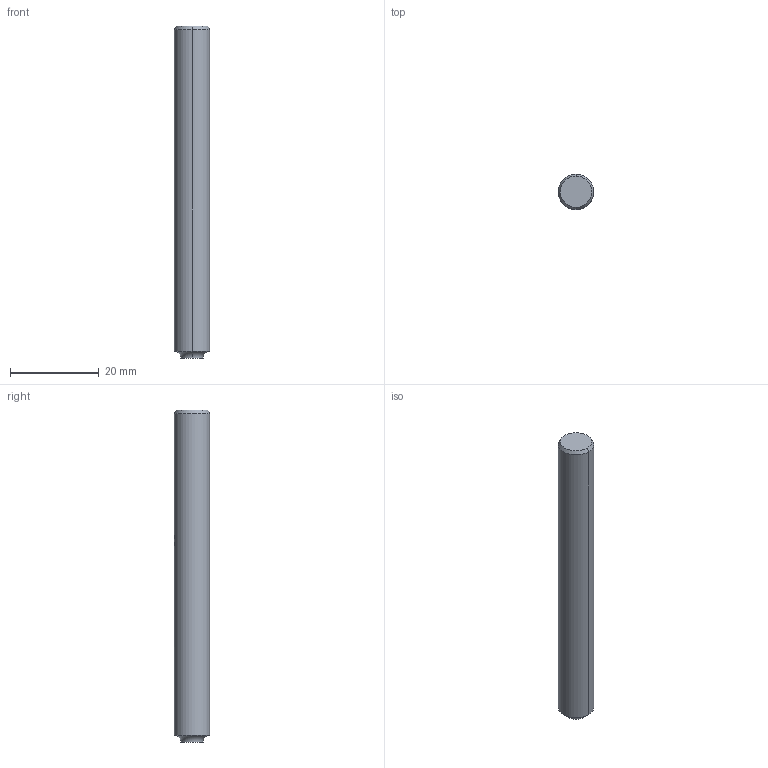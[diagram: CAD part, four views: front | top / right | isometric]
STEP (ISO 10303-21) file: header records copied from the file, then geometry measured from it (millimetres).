
FILE_DESCRIPTION(('no description'),'unknown implementation level');
FILE_NAME('solidTqMFCvBiJ1fvJggKzX_j1cEv93E_1.STP',' ',('CIMSOURCE GmbH'),('CADClick - KiM GmbH - www.kimweb.de'),'unknown preprocess','ACIS','unknown authorization');
FILE_SCHEMA(('automotive_design'));
Length unit declared in the file: millimetre
Products named in the file (2): NOCUT; CUT
Bounding box: 8 x 8 x 75 mm (x, y, z)
Volume: 3727.8 mm3; surface area: 2097.9 mm2
Topology: 2 solids, 2 shells, 31 faces, 76 edges, 49 vertices
Faces by surface type: cylinder 14, plane 9, cone 6, torus 2
Entity records: 2062 total; most frequent: CARTESIAN_POINT 390, DIRECTION 167, STYLED_ITEM 158, PRESENTATION_STYLE_ASSIGNMENT 158, COLOUR_RGB 158, ORIENTED_EDGE 152, EDGE_CURVE 76, CURVE_STYLE 76
